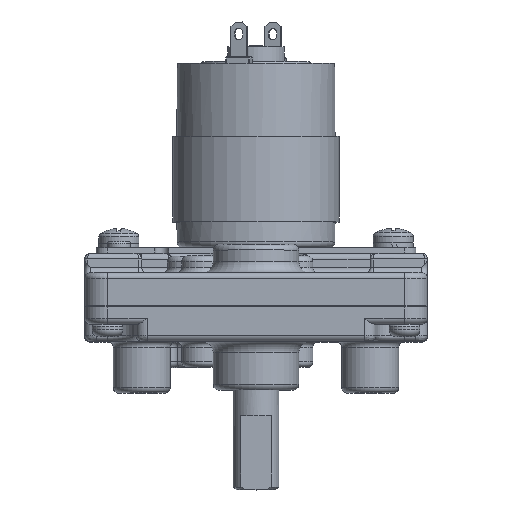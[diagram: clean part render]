
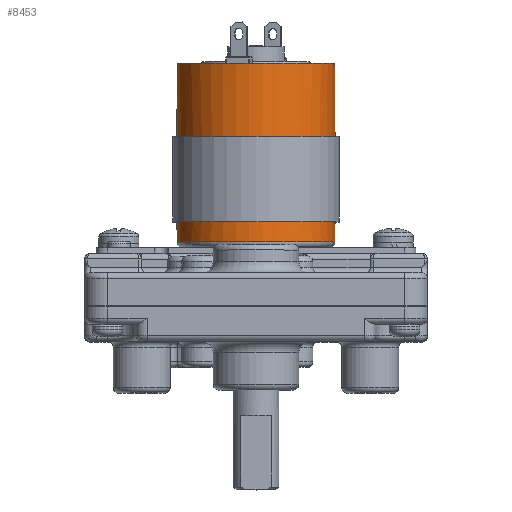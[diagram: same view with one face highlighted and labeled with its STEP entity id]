
A CAD part, top view. The second image highlights one B-rep face of the part: STEP entity #8453.
In plain terms, the highlighted cylindrical face has radius 13.85 mm (diameter 27.7 mm), a full revolution.
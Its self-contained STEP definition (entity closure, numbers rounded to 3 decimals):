
#743=FACE_OUTER_BOUND('',#1311,.T.);
#1311=EDGE_LOOP('',(#6088,#6089,#6090,#6091,#6092,#6093,#6094,#6095,#6096,
#6097,#6098,#6099,#6100));
#1814=LINE('',#13183,#2386);
#1817=LINE('',#13194,#2389);
#1970=LINE('',#13675,#2542);
#1971=LINE('',#13676,#2543);
#2386=VECTOR('',#10252,10.);
#2389=VECTOR('',#10263,10.);
#2542=VECTOR('',#10784,13.85);
#2543=VECTOR('',#10785,13.85);
#2958=CIRCLE('',#9066,13.85);
#2959=CIRCLE('',#9067,13.85);
#2960=CIRCLE('',#9069,13.85);
#2961=CIRCLE('',#9070,13.85);
#3009=CIRCLE('',#9189,13.85);
#3032=CIRCLE('',#9246,13.85);
#3033=CIRCLE('',#9247,13.85);
#3583=VERTEX_POINT('',#13176);
#3586=VERTEX_POINT('',#13181);
#3589=VERTEX_POINT('',#13191);
#3590=VERTEX_POINT('',#13193);
#3591=VERTEX_POINT('',#13197);
#3592=VERTEX_POINT('',#13201);
#3701=VERTEX_POINT('',#13547);
#3733=VERTEX_POINT('',#13669);
#3734=VERTEX_POINT('',#13671);
#4373=EDGE_CURVE('',#3583,#3586,#1814,.T.);
#4378=EDGE_CURVE('',#3590,#3589,#1817,.T.);
#4380=EDGE_CURVE('',#3591,#3583,#2958,.T.);
#4381=EDGE_CURVE('',#3589,#3591,#2959,.T.);
#4382=EDGE_CURVE('',#3586,#3592,#2960,.T.);
#4383=EDGE_CURVE('',#3592,#3590,#2961,.T.);
#4548=EDGE_CURVE('',#3701,#3701,#3009,.T.);
#4605=EDGE_CURVE('',#3733,#3734,#3032,.T.);
#4606=EDGE_CURVE('',#3734,#3733,#3033,.T.);
#4607=EDGE_CURVE('',#3701,#3591,#1970,.T.);
#4608=EDGE_CURVE('',#3592,#3734,#1971,.T.);
#6088=ORIENTED_EDGE('',*,*,#4548,.T.);
#6089=ORIENTED_EDGE('',*,*,#4607,.T.);
#6090=ORIENTED_EDGE('',*,*,#4380,.T.);
#6091=ORIENTED_EDGE('',*,*,#4373,.T.);
#6092=ORIENTED_EDGE('',*,*,#4382,.T.);
#6093=ORIENTED_EDGE('',*,*,#4608,.T.);
#6094=ORIENTED_EDGE('',*,*,#4605,.F.);
#6095=ORIENTED_EDGE('',*,*,#4606,.F.);
#6096=ORIENTED_EDGE('',*,*,#4608,.F.);
#6097=ORIENTED_EDGE('',*,*,#4383,.T.);
#6098=ORIENTED_EDGE('',*,*,#4378,.T.);
#6099=ORIENTED_EDGE('',*,*,#4381,.T.);
#6100=ORIENTED_EDGE('',*,*,#4607,.F.);
#8163=CYLINDRICAL_SURFACE('',#9248,13.85);
#8453=ADVANCED_FACE('',(#743),#8163,.T.);
#9066=AXIS2_PLACEMENT_3D('',#13198,#10267,#10268);
#9067=AXIS2_PLACEMENT_3D('',#13199,#10269,#10270);
#9069=AXIS2_PLACEMENT_3D('',#13202,#10273,#10274);
#9070=AXIS2_PLACEMENT_3D('',#13203,#10275,#10276);
#9189=AXIS2_PLACEMENT_3D('',#13548,#10630,#10631);
#9246=AXIS2_PLACEMENT_3D('',#13672,#10778,#10779);
#9247=AXIS2_PLACEMENT_3D('',#13673,#10780,#10781);
#9248=AXIS2_PLACEMENT_3D('',#13674,#10782,#10783);
#10252=DIRECTION('',(0.,-1.,0.));
#10263=DIRECTION('',(0.,1.,0.));
#10267=DIRECTION('center_axis',(0.,1.,0.));
#10268=DIRECTION('ref_axis',(1.,0.,0.));
#10269=DIRECTION('center_axis',(0.,1.,0.));
#10270=DIRECTION('ref_axis',(1.,0.,0.));
#10273=DIRECTION('center_axis',(0.,-1.,0.));
#10274=DIRECTION('ref_axis',(1.,0.,0.));
#10275=DIRECTION('center_axis',(0.,-1.,0.));
#10276=DIRECTION('ref_axis',(1.,0.,0.));
#10630=DIRECTION('center_axis',(0.,-1.,0.));
#10631=DIRECTION('ref_axis',(1.,0.,0.));
#10778=DIRECTION('center_axis',(0.,-1.,0.));
#10779=DIRECTION('ref_axis',(1.,0.,0.));
#10780=DIRECTION('center_axis',(0.,-1.,0.));
#10781=DIRECTION('ref_axis',(1.,0.,0.));
#10782=DIRECTION('center_axis',(0.,1.,0.));
#10783=DIRECTION('ref_axis',(1.,0.,0.));
#10784=DIRECTION('',(0.,-1.,0.));
#10785=DIRECTION('',(0.,-1.,0.));
#13176=CARTESIAN_POINT('',(1.25,19.5,-13.793));
#13181=CARTESIAN_POINT('',(1.25,4.5,-13.793));
#13183=CARTESIAN_POINT('',(1.25,0.,-13.793));
#13191=CARTESIAN_POINT('',(-1.25,19.5,-13.793));
#13193=CARTESIAN_POINT('',(-1.25,4.5,-13.793));
#13194=CARTESIAN_POINT('',(-1.25,0.,-13.793));
#13197=CARTESIAN_POINT('',(-13.85,19.5,0.));
#13198=CARTESIAN_POINT('Origin',(0.,19.5,0.));
#13199=CARTESIAN_POINT('Origin',(0.,19.5,0.));
#13201=CARTESIAN_POINT('',(-13.85,4.5,0.));
#13202=CARTESIAN_POINT('Origin',(0.,4.5,0.));
#13203=CARTESIAN_POINT('Origin',(0.,4.5,0.));
#13547=CARTESIAN_POINT('',(-13.85,32.3,0.));
#13548=CARTESIAN_POINT('Origin',(0.,32.3,0.));
#13669=CARTESIAN_POINT('',(0.,1.,13.85));
#13671=CARTESIAN_POINT('',(-13.85,1.,0.));
#13672=CARTESIAN_POINT('Origin',(0.,1.,0.));
#13673=CARTESIAN_POINT('Origin',(0.,1.,0.));
#13674=CARTESIAN_POINT('Origin',(0.,0.,0.));
#13675=CARTESIAN_POINT('',(-13.85,0.,0.));
#13676=CARTESIAN_POINT('',(-13.85,0.,0.));
